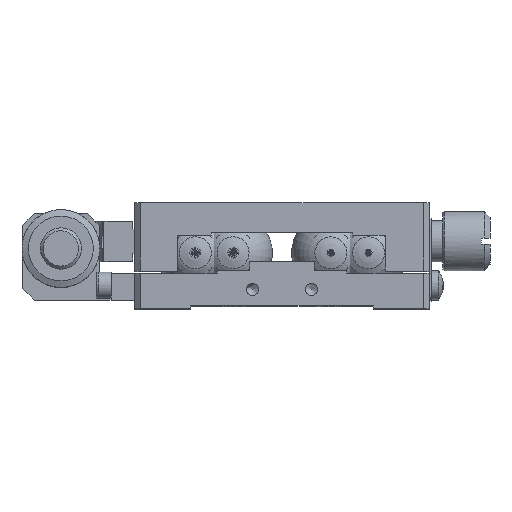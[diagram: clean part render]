
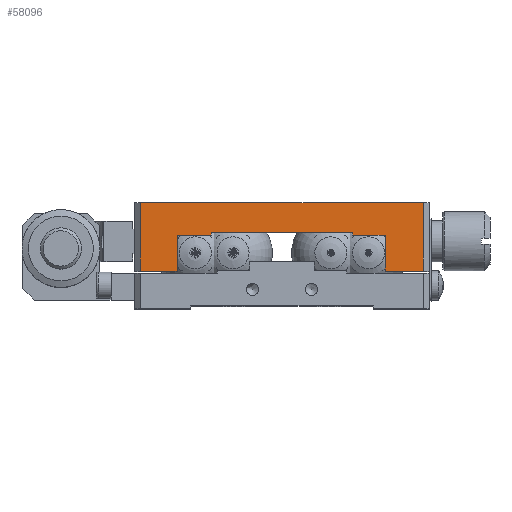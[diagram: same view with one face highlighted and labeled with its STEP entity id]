
A CAD part, top view. The second image highlights one B-rep face of the part: STEP entity #58096.
In plain terms, the highlighted planar face has unit normal (0, 0, 1).
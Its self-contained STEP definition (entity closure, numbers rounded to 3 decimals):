
#1359 = LINE ( 'NONE', #31648, #13341 ) ;
#2811 = DIRECTION ( 'NONE',  ( 1., 0., 0. ) ) ;
#3560 = VECTOR ( 'NONE', #10082, 1000. ) ;
#3578 = LINE ( 'NONE', #46044, #33469 ) ;
#4994 = EDGE_CURVE ( 'NONE', #15565, #27440, #57682, .T. ) ;
#5462 = LINE ( 'NONE', #42053, #23373 ) ;
#5480 = CARTESIAN_POINT ( 'NONE',  ( 7.2, 12.5, 50. ) ) ;
#5965 = CARTESIAN_POINT ( 'NONE',  ( 13., 13., 50. ) ) ;
#6137 = VECTOR ( 'NONE', #52588, 1000. ) ;
#9020 = VERTEX_POINT ( 'NONE', #19724 ) ;
#10082 = DIRECTION ( 'NONE',  ( 0., -1., 0. ) ) ;
#10254 = EDGE_CURVE ( 'NONE', #49974, #15604, #58861, .T. ) ;
#10534 = ORIENTED_EDGE ( 'NONE', *, *, #51714, .T. ) ;
#13341 = VECTOR ( 'NONE', #73691, 1000. ) ;
#13466 = VERTEX_POINT ( 'NONE', #23749 ) ;
#13591 = VECTOR ( 'NONE', #2811, 1000. ) ;
#13595 = CARTESIAN_POINT ( 'NONE',  ( 49., 18., 50. ) ) ;
#15565 = VERTEX_POINT ( 'NONE', #51301 ) ;
#15604 = VERTEX_POINT ( 'NONE', #68602 ) ;
#18236 = DIRECTION ( 'NONE',  ( 1., 0., 0. ) ) ;
#19724 = CARTESIAN_POINT ( 'NONE',  ( 37., 13., 50. ) ) ;
#19779 = ORIENTED_EDGE ( 'NONE', *, *, #63264, .T. ) ;
#19824 = EDGE_CURVE ( 'NONE', #57981, #15604, #70806, .T. ) ;
#21148 = CARTESIAN_POINT ( 'NONE',  ( 1., 6.4, 50. ) ) ;
#21504 = ORIENTED_EDGE ( 'NONE', *, *, #38064, .F. ) ;
#21736 = CARTESIAN_POINT ( 'NONE',  ( 7.2, 6.4, 50. ) ) ;
#22343 = DIRECTION ( 'NONE',  ( -1., 0., 0. ) ) ;
#23189 = DIRECTION ( 'NONE',  ( 0., -1., 0. ) ) ;
#23332 = EDGE_CURVE ( 'NONE', #9020, #57981, #57142, .T. ) ;
#23373 = VECTOR ( 'NONE', #23189, 1000. ) ;
#23749 = CARTESIAN_POINT ( 'NONE',  ( 42.5, 6.4, 50. ) ) ;
#25406 = LINE ( 'NONE', #49387, #54676 ) ;
#25471 = ORIENTED_EDGE ( 'NONE', *, *, #27017, .F. ) ;
#26049 = CARTESIAN_POINT ( 'NONE',  ( 37., 12.5, 50. ) ) ;
#26374 = VERTEX_POINT ( 'NONE', #26049 ) ;
#27017 = EDGE_CURVE ( 'NONE', #26374, #9020, #37178, .T. ) ;
#27076 = CARTESIAN_POINT ( 'NONE',  ( 13., 13., 50. ) ) ;
#27184 = CARTESIAN_POINT ( 'NONE',  ( 42.5, 12.5, 50. ) ) ;
#27440 = VERTEX_POINT ( 'NONE', #21148 ) ;
#28184 = CARTESIAN_POINT ( 'NONE',  ( 1., 18., 50. ) ) ;
#28754 = VERTEX_POINT ( 'NONE', #21736 ) ;
#28955 = VERTEX_POINT ( 'NONE', #72320 ) ;
#29347 = ORIENTED_EDGE ( 'NONE', *, *, #19824, .F. ) ;
#30052 = CARTESIAN_POINT ( 'NONE',  ( 50., 6.4, 50. ) ) ;
#30888 = DIRECTION ( 'NONE',  ( 0., 1., 0. ) ) ;
#31648 = CARTESIAN_POINT ( 'NONE',  ( 49., 18., 50. ) ) ;
#33469 = VECTOR ( 'NONE', #68865, 1000. ) ;
#34135 = CARTESIAN_POINT ( 'NONE',  ( 42.5, 12.5, 50. ) ) ;
#36444 = EDGE_LOOP ( 'NONE', ( #64857, #68307, #10534, #50356, #46096, #21504, #75723, #29347, #55823, #25471, #19779, #50728 ) ) ;
#37178 = LINE ( 'NONE', #55637, #43104 ) ;
#37194 = VERTEX_POINT ( 'NONE', #13595 ) ;
#37243 = EDGE_CURVE ( 'NONE', #28955, #13466, #25406, .T. ) ;
#37343 = EDGE_CURVE ( 'NONE', #13466, #60385, #65823, .T. ) ;
#38064 = EDGE_CURVE ( 'NONE', #49974, #28754, #5462, .T. ) ;
#39375 = CARTESIAN_POINT ( 'NONE',  ( 13., 12.5, 50. ) ) ;
#39642 = PLANE ( 'NONE',  #62522 ) ;
#41210 = VECTOR ( 'NONE', #63757, 1000. ) ;
#41391 = VECTOR ( 'NONE', #64981, 1000. ) ;
#42053 = CARTESIAN_POINT ( 'NONE',  ( 7.2, 12.5, 50. ) ) ;
#43104 = VECTOR ( 'NONE', #30888, 1000. ) ;
#46044 = CARTESIAN_POINT ( 'NONE',  ( 0., 18., 50. ) ) ;
#46096 = ORIENTED_EDGE ( 'NONE', *, *, #70380, .T. ) ;
#47163 = VECTOR ( 'NONE', #18236, 1000. ) ;
#48453 = CARTESIAN_POINT ( 'NONE',  ( 7.5, 6.4, 50. ) ) ;
#48953 = VECTOR ( 'NONE', #53961, 1000. ) ;
#49387 = CARTESIAN_POINT ( 'NONE',  ( 42.5, 6.4, 50. ) ) ;
#49974 = VERTEX_POINT ( 'NONE', #5480 ) ;
#50356 = ORIENTED_EDGE ( 'NONE', *, *, #4994, .T. ) ;
#50414 = LINE ( 'NONE', #27184, #13591 ) ;
#50728 = ORIENTED_EDGE ( 'NONE', *, *, #37243, .T. ) ;
#51301 = CARTESIAN_POINT ( 'NONE',  ( 1., 18., 50. ) ) ;
#51416 = EDGE_CURVE ( 'NONE', #60385, #37194, #1359, .T. ) ;
#51714 = EDGE_CURVE ( 'NONE', #37194, #15565, #3578, .T. ) ;
#52588 = DIRECTION ( 'NONE',  ( 1., 0., 0. ) ) ;
#53961 = DIRECTION ( 'NONE',  ( -1., 0., 0. ) ) ;
#54676 = VECTOR ( 'NONE', #73356, 1000. ) ;
#55637 = CARTESIAN_POINT ( 'NONE',  ( 37., 12.5, 50. ) ) ;
#55823 = ORIENTED_EDGE ( 'NONE', *, *, #23332, .F. ) ;
#57142 = LINE ( 'NONE', #5965, #48953 ) ;
#57682 = LINE ( 'NONE', #28184, #3560 ) ;
#57981 = VERTEX_POINT ( 'NONE', #27076 ) ;
#58096 = ADVANCED_FACE ( 'NONE', ( #64793 ), #39642, .F. ) ;
#58861 = LINE ( 'NONE', #34135, #6137 ) ;
#60385 = VERTEX_POINT ( 'NONE', #65833 ) ;
#62522 = AXIS2_PLACEMENT_3D ( 'NONE', #65196, #76956, #22343 ) ;
#63264 = EDGE_CURVE ( 'NONE', #26374, #28955, #50414, .T. ) ;
#63757 = DIRECTION ( 'NONE',  ( 0., -1., 0. ) ) ;
#64793 = FACE_OUTER_BOUND ( 'NONE', #36444, .T. ) ;
#64857 = ORIENTED_EDGE ( 'NONE', *, *, #37343, .T. ) ;
#64981 = DIRECTION ( 'NONE',  ( 1., 0., 0. ) ) ;
#65196 = CARTESIAN_POINT ( 'NONE',  ( 0., 18., 50. ) ) ;
#65823 = LINE ( 'NONE', #30052, #47163 ) ;
#65833 = CARTESIAN_POINT ( 'NONE',  ( 49., 6.4, 50. ) ) ;
#68307 = ORIENTED_EDGE ( 'NONE', *, *, #51416, .T. ) ;
#68602 = CARTESIAN_POINT ( 'NONE',  ( 13., 12.5, 50. ) ) ;
#68865 = DIRECTION ( 'NONE',  ( -1., 0., 0. ) ) ;
#70380 = EDGE_CURVE ( 'NONE', #27440, #28754, #72029, .T. ) ;
#70806 = LINE ( 'NONE', #39375, #41210 ) ;
#72029 = LINE ( 'NONE', #48453, #41391 ) ;
#72320 = CARTESIAN_POINT ( 'NONE',  ( 42.5, 12.5, 50. ) ) ;
#73356 = DIRECTION ( 'NONE',  ( 0., -1., 0. ) ) ;
#73691 = DIRECTION ( 'NONE',  ( 0., 1., 0. ) ) ;
#75723 = ORIENTED_EDGE ( 'NONE', *, *, #10254, .T. ) ;
#76956 = DIRECTION ( 'NONE',  ( 0., 0., -1. ) ) ;
